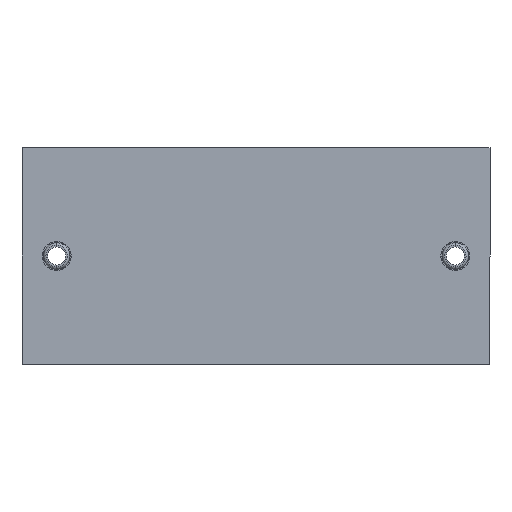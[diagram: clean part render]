
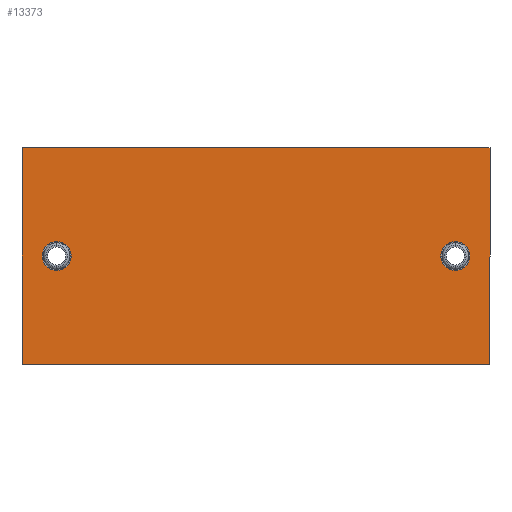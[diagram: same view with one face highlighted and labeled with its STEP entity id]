
A CAD part, front view. The second image highlights one B-rep face of the part: STEP entity #13373.
In plain terms, the highlighted planar face has unit normal (0, -1, 0).
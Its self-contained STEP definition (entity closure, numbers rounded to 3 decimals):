
#65 = FACE_OUTER_BOUND ( 'NONE', #11753, .T. ) ;
#237 = DIRECTION ( 'NONE',  ( 0., 0., -1. ) ) ;
#363 = CARTESIAN_POINT ( 'NONE',  ( 108., 0., 0. ) ) ;
#575 = CIRCLE ( 'NONE', #16374, 3.35 ) ;
#916 = VERTEX_POINT ( 'NONE', #13255 ) ;
#1346 = CARTESIAN_POINT ( 'NONE',  ( 0., 0., 0. ) ) ;
#1558 = EDGE_CURVE ( 'NONE', #7081, #15175, #10232, .T. ) ;
#1904 = EDGE_CURVE ( 'NONE', #15175, #7081, #575, .T. ) ;
#2102 = VERTEX_POINT ( 'NONE', #17358 ) ;
#2110 = VERTEX_POINT ( 'NONE', #15371 ) ;
#2812 = PLANE ( 'NONE',  #17541 ) ;
#2948 = LINE ( 'NONE', #6256, #6392 ) ;
#3311 = DIRECTION ( 'NONE',  ( 0., 0., -1. ) ) ;
#3458 = LINE ( 'NONE', #363, #18572 ) ;
#3936 = DIRECTION ( 'NONE',  ( 0., 0., -1. ) ) ;
#3943 = AXIS2_PLACEMENT_3D ( 'NONE', #15538, #16815, #3936 ) ;
#4010 = LINE ( 'NONE', #9095, #15257 ) ;
#4257 = DIRECTION ( 'NONE',  ( 0., -1., 0. ) ) ;
#4383 = DIRECTION ( 'NONE',  ( 1., 0., 0. ) ) ;
#4515 = EDGE_CURVE ( 'NONE', #916, #2110, #12208, .T. ) ;
#4767 = DIRECTION ( 'NONE',  ( 0., 0., 1. ) ) ;
#5285 = ORIENTED_EDGE ( 'NONE', *, *, #14931, .F. ) ;
#6152 = CARTESIAN_POINT ( 'NONE',  ( 100., 0., -25. ) ) ;
#6256 = CARTESIAN_POINT ( 'NONE',  ( 0., 0., -50. ) ) ;
#6392 = VECTOR ( 'NONE', #17957, 1000. ) ;
#6614 = VECTOR ( 'NONE', #4383, 1000. ) ;
#6643 = ORIENTED_EDGE ( 'NONE', *, *, #1904, .F. ) ;
#7081 = VERTEX_POINT ( 'NONE', #12943 ) ;
#7107 = ORIENTED_EDGE ( 'NONE', *, *, #17867, .T. ) ;
#7440 = VERTEX_POINT ( 'NONE', #14168 ) ;
#7568 = VERTEX_POINT ( 'NONE', #10182 ) ;
#7639 = DIRECTION ( 'NONE',  ( 0., 0., -1. ) ) ;
#8007 = ORIENTED_EDGE ( 'NONE', *, *, #14773, .F. ) ;
#8348 = CIRCLE ( 'NONE', #17762, 3.35 ) ;
#8411 = ORIENTED_EDGE ( 'NONE', *, *, #1558, .F. ) ;
#8991 = DIRECTION ( 'NONE',  ( 0., 1., 0. ) ) ;
#9095 = CARTESIAN_POINT ( 'NONE',  ( 0., 0., 0. ) ) ;
#9702 = EDGE_LOOP ( 'NONE', ( #7107, #12825 ) ) ;
#10010 = EDGE_LOOP ( 'NONE', ( #8411, #6643 ) ) ;
#10182 = CARTESIAN_POINT ( 'NONE',  ( 108., 0., 0. ) ) ;
#10232 = CIRCLE ( 'NONE', #3943, 3.35 ) ;
#11703 = CARTESIAN_POINT ( 'NONE',  ( 0., 0., 0. ) ) ;
#11753 = EDGE_LOOP ( 'NONE', ( #13387, #5285, #12533, #8007 ) ) ;
#12208 = CIRCLE ( 'NONE', #15158, 3.35 ) ;
#12346 = VERTEX_POINT ( 'NONE', #13336 ) ;
#12533 = ORIENTED_EDGE ( 'NONE', *, *, #14158, .F. ) ;
#12825 = ORIENTED_EDGE ( 'NONE', *, *, #4515, .T. ) ;
#12943 = CARTESIAN_POINT ( 'NONE',  ( 8., 0., -28.35 ) ) ;
#13255 = CARTESIAN_POINT ( 'NONE',  ( 100., 0., -21.65 ) ) ;
#13336 = CARTESIAN_POINT ( 'NONE',  ( 0., 0., -50. ) ) ;
#13373 = ADVANCED_FACE ( 'NONE', ( #15637, #16118, #65 ), #2812, .T. ) ;
#13387 = ORIENTED_EDGE ( 'NONE', *, *, #15452, .F. ) ;
#14085 = CARTESIAN_POINT ( 'NONE',  ( 8., 0., -21.65 ) ) ;
#14158 = EDGE_CURVE ( 'NONE', #7568, #7440, #3458, .T. ) ;
#14168 = CARTESIAN_POINT ( 'NONE',  ( 108., 0., -50. ) ) ;
#14526 = DIRECTION ( 'NONE',  ( 0., 0., -1. ) ) ;
#14621 = DIRECTION ( 'NONE',  ( 0., -1., 0. ) ) ;
#14773 = EDGE_CURVE ( 'NONE', #2102, #7568, #18284, .T. ) ;
#14931 = EDGE_CURVE ( 'NONE', #7440, #12346, #2948, .T. ) ;
#14951 = DIRECTION ( 'NONE',  ( 0., 0., -1. ) ) ;
#15158 = AXIS2_PLACEMENT_3D ( 'NONE', #6152, #16411, #7639 ) ;
#15175 = VERTEX_POINT ( 'NONE', #14085 ) ;
#15257 = VECTOR ( 'NONE', #4767, 1000. ) ;
#15371 = CARTESIAN_POINT ( 'NONE',  ( 100., 0., -28.35 ) ) ;
#15452 = EDGE_CURVE ( 'NONE', #12346, #2102, #4010, .T. ) ;
#15538 = CARTESIAN_POINT ( 'NONE',  ( 8., 0., -25. ) ) ;
#15637 = FACE_BOUND ( 'NONE', #9702, .T. ) ;
#15858 = CARTESIAN_POINT ( 'NONE',  ( 8., 0., -25. ) ) ;
#16118 = FACE_BOUND ( 'NONE', #10010, .T. ) ;
#16374 = AXIS2_PLACEMENT_3D ( 'NONE', #15858, #14621, #14951 ) ;
#16411 = DIRECTION ( 'NONE',  ( 0., 1., 0. ) ) ;
#16815 = DIRECTION ( 'NONE',  ( 0., -1., 0. ) ) ;
#17358 = CARTESIAN_POINT ( 'NONE',  ( 0., 0., 0. ) ) ;
#17541 = AXIS2_PLACEMENT_3D ( 'NONE', #1346, #4257, #14526 ) ;
#17762 = AXIS2_PLACEMENT_3D ( 'NONE', #17764, #8991, #237 ) ;
#17764 = CARTESIAN_POINT ( 'NONE',  ( 100., 0., -25. ) ) ;
#17867 = EDGE_CURVE ( 'NONE', #2110, #916, #8348, .T. ) ;
#17957 = DIRECTION ( 'NONE',  ( -1., 0., 0. ) ) ;
#18284 = LINE ( 'NONE', #11703, #6614 ) ;
#18572 = VECTOR ( 'NONE', #3311, 1000. ) ;
